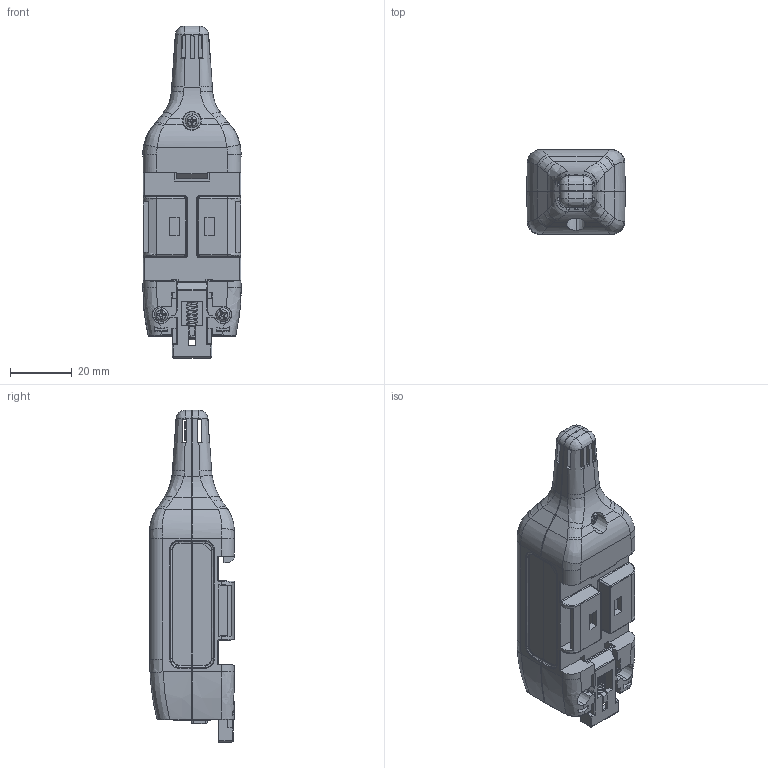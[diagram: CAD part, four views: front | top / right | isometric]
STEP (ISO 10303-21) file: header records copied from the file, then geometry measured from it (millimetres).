
FILE_DESCRIPTION (( 'STEP AP203' ), '1' );
FILE_NAME ('Accura-TSEN Ass''y_20201028.STEP', '2020-10-28T08:10:58', ( '' ), ( '' ), 'SwSTEP 2.0', 'SolidWorks 2020', '' );
FILE_SCHEMA (( 'CONFIG_CONTROL_DESIGN' ));
Length unit declared in the file: millimetre
Products named in the file (18): pan cross head_ks_KS 1023 PC- M2.6 x 12-N; 蕾雖(曄寥0.2); Case-Top; Hook; DJT-1114S; Reset-Button; S-1211A; Case-Bottom Ass''y; PCB-Sensor Ass''y; Case-Bottom; PCB-Sensor; LED-Bar; TM Sensor; Accura-TSEN Ass''y_20201028; Spring(0.6 X 19); RJ45-Vertical-Shield; Case-Top Ass''y
Assembly tree (20 placements, depth 4):
  Accura-TSEN Ass''y_20201028
    Case-Top Ass''y
      Case-Top
        Case-Top
        LED-Bar
      PCB-Sensor Ass''y
        PCB-Sensor
        RJ45-Vertical-Shield  x2
        S-1211A
        TM Sensor
        DJT-1114S
        蕾雖(曄寥0.2)
    Case-Bottom Ass''y
      Case-Bottom
      Reset-Button
    Hook
    pan cross head_ks_KS 1023 PC- M2.6 x 12-N  x3
    Spring(0.6 X 19)
Bounding box: 32 x 27.5 x 107.84 mm (x, y, z)
Volume: 28777 mm3; surface area: 35847.8 mm2
Topology: 16 solids, 16 shells, 2401 faces, 6776 edges, 4389 vertices
Faces by surface type: plane 1574, cylinder 366, bspline 293, cone 140, torus 22, sphere 6
Entity records: 92313 total; most frequent: CARTESIAN_POINT 42999, ORIENTED_EDGE 10918, DIRECTION 8367, EDGE_CURVE 5459, LINE 3553, VECTOR 3553, VERTEX_POINT 3549, AXIS2_PLACEMENT_3D 2407
